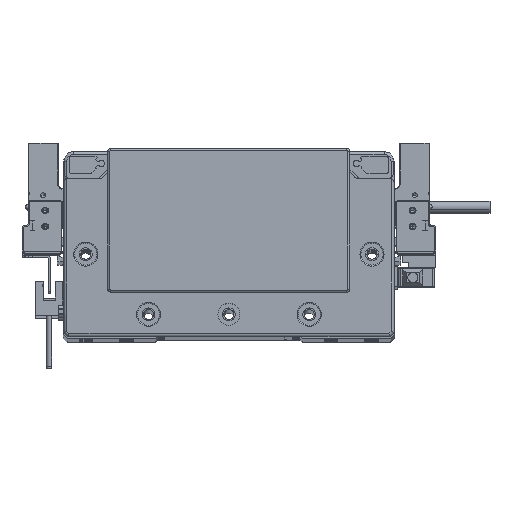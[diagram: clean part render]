
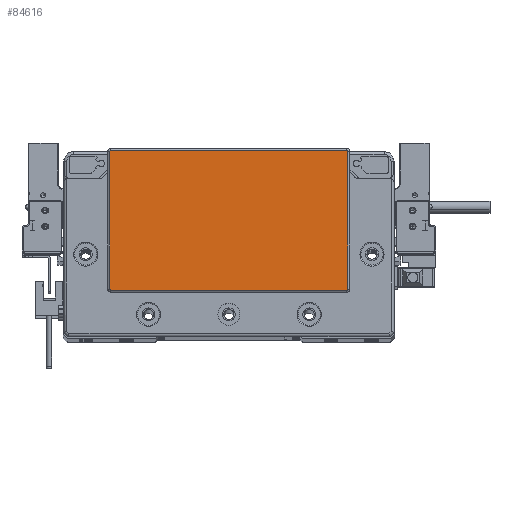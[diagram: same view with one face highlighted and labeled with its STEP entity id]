
A CAD part, top view. The second image highlights one B-rep face of the part: STEP entity #84616.
In plain terms, the highlighted planar face has unit normal (0, 0, 1) as drawn and (0, 0, -1) by its records, which use the part's own axes.
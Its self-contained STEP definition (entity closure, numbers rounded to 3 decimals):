
#854 = FACE_OUTER_BOUND ( 'NONE', #79774, .T. ) ;
#866 = EDGE_CURVE ( 'NONE', #17704, #56426, #79871, .T. ) ;
#1121 = DIRECTION ( 'NONE',  ( -1., 0., 0. ) ) ;
#2270 = CARTESIAN_POINT ( 'NONE',  ( 58.75, -23.3, -2. ) ) ;
#3049 = DIRECTION ( 'NONE',  ( -1., 0., 0. ) ) ;
#5291 = EDGE_CURVE ( 'NONE', #52356, #17704, #16780, .T. ) ;
#5340 = CARTESIAN_POINT ( 'NONE',  ( 58.75, -23.8, -2. ) ) ;
#7874 = DIRECTION ( 'NONE',  ( 1., 0., 0. ) ) ;
#16780 = CIRCLE ( 'NONE', #76655, 0.5 ) ;
#17479 = DIRECTION ( 'NONE',  ( 0., 0., -1. ) ) ;
#17499 = LINE ( 'NONE', #42142, #32888 ) ;
#17704 = VERTEX_POINT ( 'NONE', #28435 ) ;
#17840 = CARTESIAN_POINT ( 'NONE',  ( -59.25, 45.3, -2. ) ) ;
#18980 = VERTEX_POINT ( 'NONE', #103992 ) ;
#19246 = ORIENTED_EDGE ( 'NONE', *, *, #52099, .T. ) ;
#19510 = CARTESIAN_POINT ( 'NONE',  ( 59.25, -23.3, -2. ) ) ;
#19966 = LINE ( 'NONE', #68698, #70543 ) ;
#20638 = EDGE_CURVE ( 'NONE', #90869, #52356, #17499, .T. ) ;
#26144 = ORIENTED_EDGE ( 'NONE', *, *, #31227, .T. ) ;
#28028 = DIRECTION ( 'NONE',  ( -1., 0., 0. ) ) ;
#28435 = CARTESIAN_POINT ( 'NONE',  ( 59.25, 45.3, -2. ) ) ;
#28768 = ORIENTED_EDGE ( 'NONE', *, *, #74936, .T. ) ;
#29532 = ORIENTED_EDGE ( 'NONE', *, *, #20638, .T. ) ;
#31227 = EDGE_CURVE ( 'NONE', #42306, #18980, #75681, .T. ) ;
#32130 = DIRECTION ( 'NONE',  ( 0., -1., 0. ) ) ;
#32888 = VECTOR ( 'NONE', #7874, 1000. ) ;
#34964 = DIRECTION ( 'NONE',  ( 0., 0., -1. ) ) ;
#36711 = CIRCLE ( 'NONE', #69221, 0.5 ) ;
#39138 = AXIS2_PLACEMENT_3D ( 'NONE', #52586, #94418, #76202 ) ;
#41856 = CARTESIAN_POINT ( 'NONE',  ( 58.75, 45.3, -2. ) ) ;
#42118 = PLANE ( 'NONE',  #49127 ) ;
#42142 = CARTESIAN_POINT ( 'NONE',  ( 58.75, 45.8, -2. ) ) ;
#42306 = VERTEX_POINT ( 'NONE', #100636 ) ;
#48275 = CARTESIAN_POINT ( 'NONE',  ( 58.75, 45.8, -2. ) ) ;
#49127 = AXIS2_PLACEMENT_3D ( 'NONE', #66221, #17479, #28028 ) ;
#50394 = ORIENTED_EDGE ( 'NONE', *, *, #62326, .T. ) ;
#51030 = DIRECTION ( 'NONE',  ( -1., 0., 0. ) ) ;
#52099 = EDGE_CURVE ( 'NONE', #75652, #80089, #19966, .T. ) ;
#52356 = VERTEX_POINT ( 'NONE', #48275 ) ;
#52586 = CARTESIAN_POINT ( 'NONE',  ( -58.75, 45.3, -2. ) ) ;
#56426 = VERTEX_POINT ( 'NONE', #19510 ) ;
#56454 = VECTOR ( 'NONE', #84795, 1000. ) ;
#57859 = ORIENTED_EDGE ( 'NONE', *, *, #866, .T. ) ;
#58274 = CARTESIAN_POINT ( 'NONE',  ( -58.75, -23.3, -2. ) ) ;
#61548 = ORIENTED_EDGE ( 'NONE', *, *, #5291, .T. ) ;
#62326 = EDGE_CURVE ( 'NONE', #18980, #90869, #73413, .T. ) ;
#62834 = CARTESIAN_POINT ( 'NONE',  ( -58.75, -23.8, -2. ) ) ;
#64011 = CARTESIAN_POINT ( 'NONE',  ( -58.75, 45.8, -2. ) ) ;
#66160 = EDGE_CURVE ( 'NONE', #56426, #75652, #77608, .T. ) ;
#66221 = CARTESIAN_POINT ( 'NONE',  ( 0., 0., -2. ) ) ;
#67645 = DIRECTION ( 'NONE',  ( -1., 0., 0. ) ) ;
#68698 = CARTESIAN_POINT ( 'NONE',  ( -58.75, -23.8, -2. ) ) ;
#69221 = AXIS2_PLACEMENT_3D ( 'NONE', #58274, #76480, #3049 ) ;
#70543 = VECTOR ( 'NONE', #51030, 1000. ) ;
#71449 = ORIENTED_EDGE ( 'NONE', *, *, #66160, .T. ) ;
#73413 = CIRCLE ( 'NONE', #39138, 0.5 ) ;
#74541 = DIRECTION ( 'NONE',  ( 0., 0., -1. ) ) ;
#74936 = EDGE_CURVE ( 'NONE', #80089, #42306, #36711, .T. ) ;
#75652 = VERTEX_POINT ( 'NONE', #5340 ) ;
#75681 = LINE ( 'NONE', #17840, #56454 ) ;
#76202 = DIRECTION ( 'NONE',  ( -1., 0., 0. ) ) ;
#76480 = DIRECTION ( 'NONE',  ( 0., 0., -1. ) ) ;
#76655 = AXIS2_PLACEMENT_3D ( 'NONE', #41856, #74541, #1121 ) ;
#77608 = CIRCLE ( 'NONE', #99882, 0.5 ) ;
#79774 = EDGE_LOOP ( 'NONE', ( #57859, #71449, #19246, #28768, #26144, #50394, #29532, #61548 ) ) ;
#79871 = LINE ( 'NONE', #96488, #101589 ) ;
#80089 = VERTEX_POINT ( 'NONE', #62834 ) ;
#84616 = ADVANCED_FACE ( 'NONE', ( #854 ), #42118, .T. ) ;
#84795 = DIRECTION ( 'NONE',  ( 0., 1., 0. ) ) ;
#90869 = VERTEX_POINT ( 'NONE', #64011 ) ;
#94418 = DIRECTION ( 'NONE',  ( 0., 0., -1. ) ) ;
#96488 = CARTESIAN_POINT ( 'NONE',  ( 59.25, -23.3, -2. ) ) ;
#99882 = AXIS2_PLACEMENT_3D ( 'NONE', #2270, #34964, #67645 ) ;
#100636 = CARTESIAN_POINT ( 'NONE',  ( -59.25, -23.3, -2. ) ) ;
#101589 = VECTOR ( 'NONE', #32130, 1000. ) ;
#103992 = CARTESIAN_POINT ( 'NONE',  ( -59.25, 45.3, -2. ) ) ;
